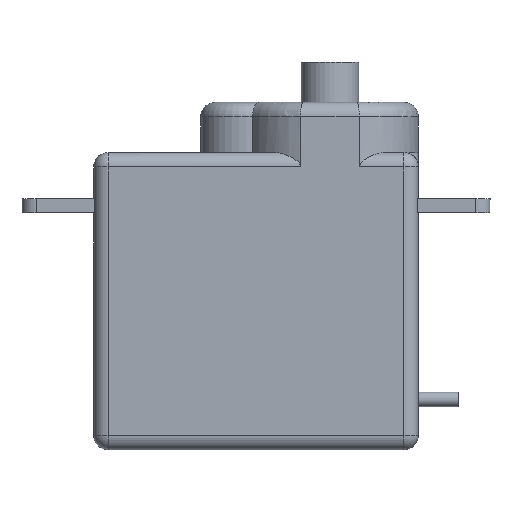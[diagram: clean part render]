
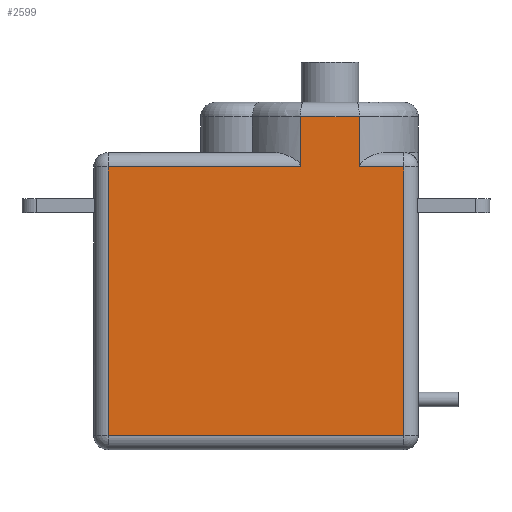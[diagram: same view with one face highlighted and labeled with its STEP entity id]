
A CAD part, front view. The second image highlights one B-rep face of the part: STEP entity #2599.
In plain terms, the highlighted planar face has unit normal (0, -1, 0).
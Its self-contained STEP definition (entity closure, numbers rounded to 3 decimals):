
#3 = CARTESIAN_POINT ( 'NONE',  ( 0., 0., -1. ) ) ;
#13 = VERTEX_POINT ( 'NONE', #632 ) ;
#43 = DIRECTION ( 'NONE',  ( -1., 0., 0. ) ) ;
#52 = CARTESIAN_POINT ( 'NONE',  ( 14.405, 0., 2.5 ) ) ;
#105 = DIRECTION ( 'NONE',  ( -1., 0., 0. ) ) ;
#117 = ORIENTED_EDGE ( 'NONE', *, *, #360, .T. ) ;
#138 = PLANE ( 'NONE',  #1064 ) ;
#165 = DIRECTION ( 'NONE',  ( 0., 0., 1. ) ) ;
#172 = VECTOR ( 'NONE', #43, 1000. ) ;
#331 = VERTEX_POINT ( 'NONE', #372 ) ;
#359 = VERTEX_POINT ( 'NONE', #1048 ) ;
#360 = EDGE_CURVE ( 'NONE', #623, #1709, #625, .T. ) ;
#372 = CARTESIAN_POINT ( 'NONE',  ( 1., 0., -1. ) ) ;
#386 = VECTOR ( 'NONE', #434, 1000. ) ;
#434 = DIRECTION ( 'NONE',  ( 0., 0., -1. ) ) ;
#455 = ORIENTED_EDGE ( 'NONE', *, *, #845, .T. ) ;
#551 = CARTESIAN_POINT ( 'NONE',  ( 0., 0., -19.7 ) ) ;
#623 = VERTEX_POINT ( 'NONE', #2695 ) ;
#625 = LINE ( 'NONE', #2139, #2310 ) ;
#632 = CARTESIAN_POINT ( 'NONE',  ( 21.6, 0., -1. ) ) ;
#697 = EDGE_CURVE ( 'NONE', #331, #1854, #1841, .T. ) ;
#755 = EDGE_CURVE ( 'NONE', #13, #1534, #1905, .T. ) ;
#761 = LINE ( 'NONE', #52, #172 ) ;
#769 = VECTOR ( 'NONE', #852, 1000. ) ;
#845 = EDGE_CURVE ( 'NONE', #1680, #13, #2532, .T. ) ;
#852 = DIRECTION ( 'NONE',  ( -1., 0., 0. ) ) ;
#905 = CARTESIAN_POINT ( 'NONE',  ( 1., 0., 0. ) ) ;
#913 = VECTOR ( 'NONE', #2330, 1000. ) ;
#939 = CARTESIAN_POINT ( 'NONE',  ( 21.6, 0., -19.7 ) ) ;
#999 = CARTESIAN_POINT ( 'NONE',  ( 1., 0., -19.7 ) ) ;
#1048 = CARTESIAN_POINT ( 'NONE',  ( 18.495, 0., 2.5 ) ) ;
#1060 = DIRECTION ( 'NONE',  ( 0., 0., -1. ) ) ;
#1064 = AXIS2_PLACEMENT_3D ( 'NONE', #1253, #2769, #165 ) ;
#1082 = LINE ( 'NONE', #3, #769 ) ;
#1099 = EDGE_LOOP ( 'NONE', ( #1600, #2655, #117, #2677, #1939, #2639, #455, #2780 ) ) ;
#1247 = CARTESIAN_POINT ( 'NONE',  ( 21.6, 0., 0. ) ) ;
#1253 = CARTESIAN_POINT ( 'NONE',  ( 0., 0., 0. ) ) ;
#1396 = CARTESIAN_POINT ( 'NONE',  ( 0., 0., -1. ) ) ;
#1462 = VECTOR ( 'NONE', #2831, 1000. ) ;
#1498 = EDGE_CURVE ( 'NONE', #1709, #331, #1082, .T. ) ;
#1534 = VERTEX_POINT ( 'NONE', #2456 ) ;
#1600 = ORIENTED_EDGE ( 'NONE', *, *, #2170, .F. ) ;
#1657 = LINE ( 'NONE', #551, #2175 ) ;
#1680 = VERTEX_POINT ( 'NONE', #939 ) ;
#1709 = VERTEX_POINT ( 'NONE', #1971 ) ;
#1796 = FACE_OUTER_BOUND ( 'NONE', #1099, .T. ) ;
#1841 = LINE ( 'NONE', #905, #386 ) ;
#1854 = VERTEX_POINT ( 'NONE', #999 ) ;
#1859 = CARTESIAN_POINT ( 'NONE',  ( 18.495, 0., 3.5 ) ) ;
#1860 = EDGE_CURVE ( 'NONE', #1854, #1680, #1657, .T. ) ;
#1905 = LINE ( 'NONE', #1396, #2193 ) ;
#1939 = ORIENTED_EDGE ( 'NONE', *, *, #697, .T. ) ;
#1971 = CARTESIAN_POINT ( 'NONE',  ( 14.405, 0., -1. ) ) ;
#2139 = CARTESIAN_POINT ( 'NONE',  ( 14.405, 0., 3.5 ) ) ;
#2170 = EDGE_CURVE ( 'NONE', #359, #1534, #2356, .T. ) ;
#2175 = VECTOR ( 'NONE', #2747, 1000. ) ;
#2193 = VECTOR ( 'NONE', #105, 1000. ) ;
#2310 = VECTOR ( 'NONE', #1060, 1000. ) ;
#2330 = DIRECTION ( 'NONE',  ( 0., 0., 1. ) ) ;
#2356 = LINE ( 'NONE', #1859, #1462 ) ;
#2456 = CARTESIAN_POINT ( 'NONE',  ( 18.495, 0., -1. ) ) ;
#2468 = EDGE_CURVE ( 'NONE', #359, #623, #761, .T. ) ;
#2532 = LINE ( 'NONE', #1247, #913 ) ;
#2599 = ADVANCED_FACE ( 'NONE', ( #1796 ), #138, .F. ) ;
#2639 = ORIENTED_EDGE ( 'NONE', *, *, #1860, .T. ) ;
#2655 = ORIENTED_EDGE ( 'NONE', *, *, #2468, .T. ) ;
#2677 = ORIENTED_EDGE ( 'NONE', *, *, #1498, .T. ) ;
#2695 = CARTESIAN_POINT ( 'NONE',  ( 14.405, 0., 2.5 ) ) ;
#2747 = DIRECTION ( 'NONE',  ( 1., 0., 0. ) ) ;
#2769 = DIRECTION ( 'NONE',  ( 0., 1., 0. ) ) ;
#2780 = ORIENTED_EDGE ( 'NONE', *, *, #755, .T. ) ;
#2831 = DIRECTION ( 'NONE',  ( 0., 0., -1. ) ) ;
